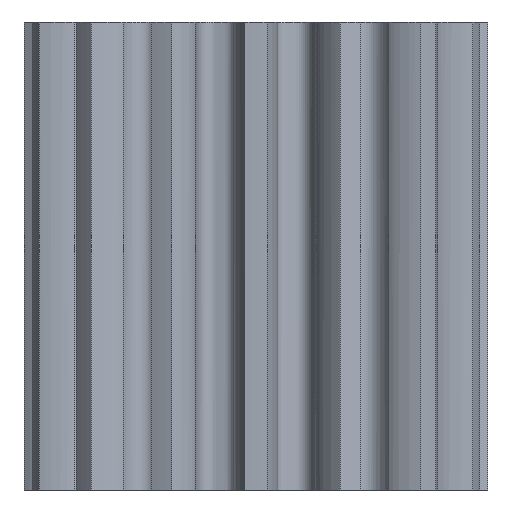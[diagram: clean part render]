
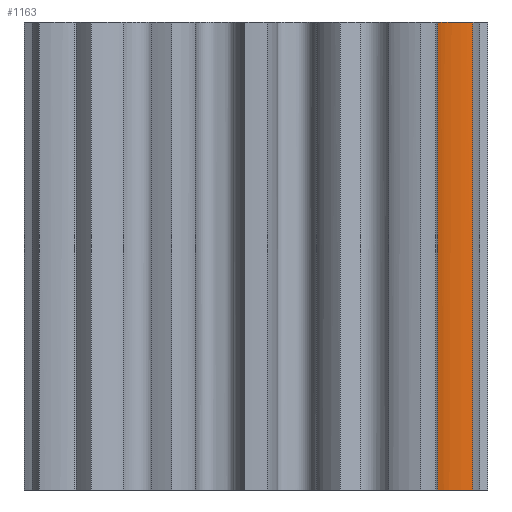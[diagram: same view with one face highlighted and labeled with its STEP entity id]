
A CAD part, front view. The second image highlights one B-rep face of the part: STEP entity #1163.
In plain terms, the highlighted free-form (B-spline) face has degree [3, 1] with [12, 2] control points.
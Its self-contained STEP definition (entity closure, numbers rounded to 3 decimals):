
#43=B_SPLINE_CURVE_WITH_KNOTS('',3,(#2759,#2760,#2761,#2762,#2763,#2764,
#2765,#2766,#2767,#2768,#2769,#2770),.UNSPECIFIED.,.F.,.F.,(4,1,1,1,1,1,
1,1,1,4),(-0.091,-0.085,-0.08,-0.068,
-0.057,-0.046,-0.034,-0.023,
-0.011,0.),.UNSPECIFIED.);
#44=B_SPLINE_CURVE_WITH_KNOTS('',3,(#2772,#2773,#2774,#2775,#2776,#2777,
#2778,#2779,#2780,#2781,#2782,#2783),.UNSPECIFIED.,.F.,.F.,(4,1,1,1,1,1,
1,1,1,4),(0.,0.011,0.023,0.034,0.046,
0.057,0.068,0.08,0.085,
0.091),.UNSPECIFIED.);
#119=B_SPLINE_SURFACE_WITH_KNOTS('',3,1,((#2734,#2735),(#2736,#2737),(#2738,
#2739),(#2740,#2741),(#2742,#2743),(#2744,#2745),(#2746,#2747),(#2748,#2749),
(#2750,#2751),(#2752,#2753),(#2754,#2755),(#2756,#2757)),.UNSPECIFIED.,
 .F.,.F.,.F.,(4,1,1,1,1,1,1,1,1,4),(2,2),(-0.091,-0.085,
-0.08,-0.068,-0.057,-0.046,
-0.034,-0.023,-0.011,0.),(0.,1.2),
 .UNSPECIFIED.);
#173=FACE_OUTER_BOUND('',#239,.T.);
#239=EDGE_LOOP('',(#823,#824,#825,#826));
#308=LINE('',#2682,#370);
#310=LINE('',#2784,#372);
#370=VECTOR('',#1314,10.);
#372=VECTOR('',#1316,10.);
#484=VERTEX_POINT('',#2600);
#486=VERTEX_POINT('',#2642);
#489=VERTEX_POINT('',#2758);
#490=VERTEX_POINT('',#2771);
#620=EDGE_CURVE('',#484,#486,#308,.T.);
#624=EDGE_CURVE('',#484,#489,#43,.T.);
#625=EDGE_CURVE('',#490,#486,#44,.T.);
#626=EDGE_CURVE('',#489,#490,#310,.T.);
#823=ORIENTED_EDGE('',*,*,#624,.F.);
#824=ORIENTED_EDGE('',*,*,#620,.T.);
#825=ORIENTED_EDGE('',*,*,#625,.F.);
#826=ORIENTED_EDGE('',*,*,#626,.F.);
#1163=ADVANCED_FACE('',(#173),#119,.F.);
#1314=DIRECTION('',(0.,0.,-1.));
#1316=DIRECTION('',(0.,0.,-1.));
#2600=CARTESIAN_POINT('',(4.661,-2.104,0.));
#2642=CARTESIAN_POINT('',(4.661,-2.104,-12.));
#2682=CARTESIAN_POINT('',(4.661,-2.104,0.));
#2734=CARTESIAN_POINT('Ctrl Pts',(4.661,-2.104,0.));
#2735=CARTESIAN_POINT('Ctrl Pts',(4.661,-2.104,-12.));
#2736=CARTESIAN_POINT('Ctrl Pts',(4.679,-2.109,0.));
#2737=CARTESIAN_POINT('Ctrl Pts',(4.679,-2.109,-12.));
#2738=CARTESIAN_POINT('Ctrl Pts',(4.715,-2.12,0.));
#2739=CARTESIAN_POINT('Ctrl Pts',(4.715,-2.12,-12.));
#2740=CARTESIAN_POINT('Ctrl Pts',(4.79,-2.135,0.));
#2741=CARTESIAN_POINT('Ctrl Pts',(4.79,-2.135,-12.));
#2742=CARTESIAN_POINT('Ctrl Pts',(4.884,-2.149,0.));
#2743=CARTESIAN_POINT('Ctrl Pts',(4.884,-2.149,-12.));
#2744=CARTESIAN_POINT('Ctrl Pts',(4.997,-2.157,0.));
#2745=CARTESIAN_POINT('Ctrl Pts',(4.997,-2.157,-12.));
#2746=CARTESIAN_POINT('Ctrl Pts',(5.111,-2.158,0.));
#2747=CARTESIAN_POINT('Ctrl Pts',(5.111,-2.158,-12.));
#2748=CARTESIAN_POINT('Ctrl Pts',(5.225,-2.154,0.));
#2749=CARTESIAN_POINT('Ctrl Pts',(5.225,-2.154,-12.));
#2750=CARTESIAN_POINT('Ctrl Pts',(5.338,-2.144,0.));
#2751=CARTESIAN_POINT('Ctrl Pts',(5.338,-2.144,-12.));
#2752=CARTESIAN_POINT('Ctrl Pts',(5.451,-2.13,0.));
#2753=CARTESIAN_POINT('Ctrl Pts',(5.451,-2.13,-12.));
#2754=CARTESIAN_POINT('Ctrl Pts',(5.526,-2.117,0.));
#2755=CARTESIAN_POINT('Ctrl Pts',(5.526,-2.117,-12.));
#2756=CARTESIAN_POINT('Ctrl Pts',(5.563,-2.11,0.));
#2757=CARTESIAN_POINT('Ctrl Pts',(5.563,-2.11,-12.));
#2758=CARTESIAN_POINT('',(5.563,-2.11,0.));
#2759=CARTESIAN_POINT('Ctrl Pts',(4.661,-2.104,0.));
#2760=CARTESIAN_POINT('Ctrl Pts',(4.679,-2.109,0.));
#2761=CARTESIAN_POINT('Ctrl Pts',(4.715,-2.12,0.));
#2762=CARTESIAN_POINT('Ctrl Pts',(4.79,-2.135,0.));
#2763=CARTESIAN_POINT('Ctrl Pts',(4.884,-2.149,0.));
#2764=CARTESIAN_POINT('Ctrl Pts',(4.997,-2.157,0.));
#2765=CARTESIAN_POINT('Ctrl Pts',(5.111,-2.158,0.));
#2766=CARTESIAN_POINT('Ctrl Pts',(5.225,-2.154,0.));
#2767=CARTESIAN_POINT('Ctrl Pts',(5.338,-2.144,0.));
#2768=CARTESIAN_POINT('Ctrl Pts',(5.451,-2.13,0.));
#2769=CARTESIAN_POINT('Ctrl Pts',(5.526,-2.117,0.));
#2770=CARTESIAN_POINT('Ctrl Pts',(5.563,-2.11,0.));
#2771=CARTESIAN_POINT('',(5.563,-2.11,-12.));
#2772=CARTESIAN_POINT('Ctrl Pts',(5.563,-2.11,-12.));
#2773=CARTESIAN_POINT('Ctrl Pts',(5.526,-2.117,-12.));
#2774=CARTESIAN_POINT('Ctrl Pts',(5.451,-2.13,-12.));
#2775=CARTESIAN_POINT('Ctrl Pts',(5.338,-2.144,-12.));
#2776=CARTESIAN_POINT('Ctrl Pts',(5.225,-2.154,-12.));
#2777=CARTESIAN_POINT('Ctrl Pts',(5.111,-2.158,-12.));
#2778=CARTESIAN_POINT('Ctrl Pts',(4.997,-2.157,-12.));
#2779=CARTESIAN_POINT('Ctrl Pts',(4.884,-2.149,-12.));
#2780=CARTESIAN_POINT('Ctrl Pts',(4.79,-2.135,-12.));
#2781=CARTESIAN_POINT('Ctrl Pts',(4.715,-2.12,-12.));
#2782=CARTESIAN_POINT('Ctrl Pts',(4.679,-2.109,-12.));
#2783=CARTESIAN_POINT('Ctrl Pts',(4.661,-2.104,-12.));
#2784=CARTESIAN_POINT('',(5.563,-2.11,0.));
